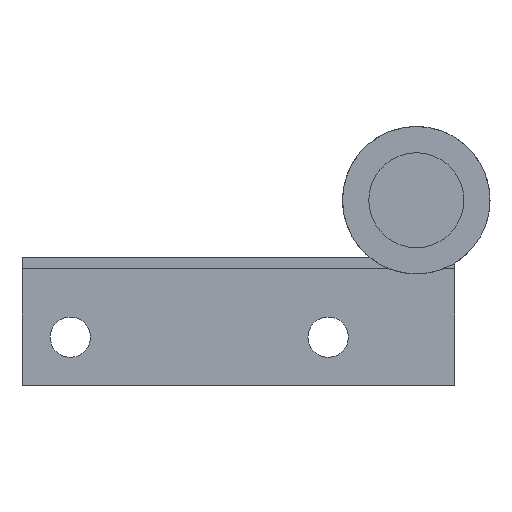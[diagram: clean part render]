
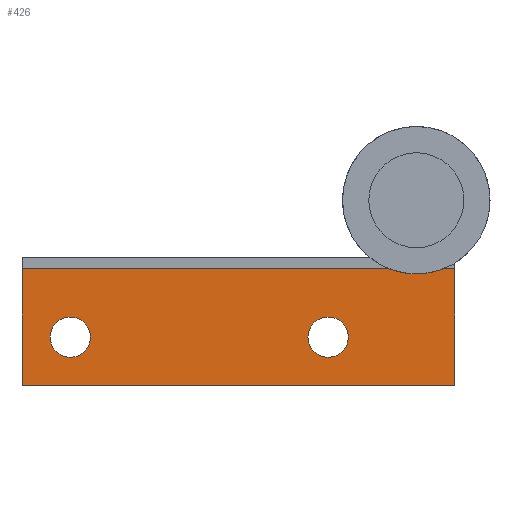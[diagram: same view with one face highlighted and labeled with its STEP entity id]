
A CAD part, front view. The second image highlights one B-rep face of the part: STEP entity #426.
In plain terms, the highlighted planar face has unit normal (0, -1, 0).
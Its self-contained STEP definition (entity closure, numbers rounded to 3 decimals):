
#1 = VERTEX_POINT ( 'NONE', #582 ) ;
#9 = VERTEX_POINT ( 'NONE', #72 ) ;
#66 = CARTESIAN_POINT ( 'NONE',  ( -48.95, 458.2, -23. ) ) ;
#67 = CARTESIAN_POINT ( 'NONE',  ( -48.95, 458.2, -8.5 ) ) ;
#70 = CARTESIAN_POINT ( 'NONE',  ( 4.75, 458.2, -8.5 ) ) ;
#72 = CARTESIAN_POINT ( 'NONE',  ( -40.45, 458.2, -17. ) ) ;
#74 = VERTEX_POINT ( 'NONE', #564 ) ;
#75 = VERTEX_POINT ( 'NONE', #70 ) ;
#78 = VERTEX_POINT ( 'NONE', #67 ) ;
#79 = VERTEX_POINT ( 'NONE', #66 ) ;
#179 = CARTESIAN_POINT ( 'NONE',  ( -13.45, 458.2, -17. ) ) ;
#187 = CARTESIAN_POINT ( 'NONE',  ( -8.45, 458.2, -17. ) ) ;
#201 = CARTESIAN_POINT ( 'NONE',  ( 9.15, 458.2, -23. ) ) ;
#208 = DIRECTION ( 'NONE',  ( -1., 0., 0. ) ) ;
#218 = CARTESIAN_POINT ( 'NONE',  ( -10.95, 458.2, -17. ) ) ;
#219 = DIRECTION ( 'NONE',  ( 0., 1., 0. ) ) ;
#220 = DIRECTION ( 'NONE',  ( 1., 0., 0. ) ) ;
#241 = CARTESIAN_POINT ( 'NONE',  ( -42.95, 458.2, -17. ) ) ;
#247 = DIRECTION ( 'NONE',  ( 0., 1., 0. ) ) ;
#248 = DIRECTION ( 'NONE',  ( 1., 0., 0. ) ) ;
#260 = CARTESIAN_POINT ( 'NONE',  ( 4.75, 458.2, -23. ) ) ;
#261 = DIRECTION ( 'NONE',  ( 0., 0., -1. ) ) ;
#266 = CARTESIAN_POINT ( 'NONE',  ( -48.95, 458.2, -23. ) ) ;
#269 = DIRECTION ( 'NONE',  ( 0., 0., -1. ) ) ;
#276 = CARTESIAN_POINT ( 'NONE',  ( -42.95, 458.2, -17. ) ) ;
#277 = DIRECTION ( 'NONE',  ( 0., 1., 0. ) ) ;
#278 = DIRECTION ( 'NONE',  ( 1., 0., 0. ) ) ;
#281 = CARTESIAN_POINT ( 'NONE',  ( 9.15, 458.2, -8.5 ) ) ;
#282 = DIRECTION ( 'NONE',  ( -1., 0., 0. ) ) ;
#359 = CARTESIAN_POINT ( 'NONE',  ( -10.95, 458.2, -17. ) ) ;
#364 = DIRECTION ( 'NONE',  ( 0., 1., 0. ) ) ;
#365 = DIRECTION ( 'NONE',  ( 1., 0., 0. ) ) ;
#426 = ADVANCED_FACE ( 'NONE', ( #883, #871, #925 ), #624, .F. ) ;
#444 = CIRCLE ( 'NONE', #1030, 2.5 ) ;
#450 = LINE ( 'NONE', #260, #451 ) ;
#451 = VECTOR ( 'NONE', #261, 1000. ) ;
#459 = CIRCLE ( 'NONE', #958, 2.5 ) ;
#461 = LINE ( 'NONE', #281, #516 ) ;
#479 = CIRCLE ( 'NONE', #956, 2.5 ) ;
#516 = VECTOR ( 'NONE', #282, 1000. ) ;
#519 = VECTOR ( 'NONE', #269, 1000. ) ;
#524 = LINE ( 'NONE', #266, #519 ) ;
#553 = CIRCLE ( 'NONE', #968, 2.5 ) ;
#564 = CARTESIAN_POINT ( 'NONE',  ( 4.75, 458.2, -23. ) ) ;
#574 = VERTEX_POINT ( 'NONE', #179 ) ;
#582 = CARTESIAN_POINT ( 'NONE',  ( -45.45, 458.2, -17. ) ) ;
#585 = VERTEX_POINT ( 'NONE', #187 ) ;
#624 = PLANE ( 'NONE',  #947 ) ;
#625 = CARTESIAN_POINT ( 'NONE',  ( 9.15, 458.2, -23. ) ) ;
#626 = DIRECTION ( 'NONE',  ( 0., 1., 0. ) ) ;
#627 = DIRECTION ( 'NONE',  ( 1., 0., 0. ) ) ;
#673 = LINE ( 'NONE', #201, #924 ) ;
#705 = ORIENTED_EDGE ( 'NONE', *, *, #989, .F. ) ;
#717 = ORIENTED_EDGE ( 'NONE', *, *, #936, .F. ) ;
#725 = EDGE_LOOP ( 'NONE', ( #776, #777 ) ) ;
#728 = EDGE_LOOP ( 'NONE', ( #891, #898 ) ) ;
#737 = EDGE_LOOP ( 'NONE', ( #899, #811, #717, #705 ) ) ;
#776 = ORIENTED_EDGE ( 'NONE', *, *, #1062, .T. ) ;
#777 = ORIENTED_EDGE ( 'NONE', *, *, #962, .T. ) ;
#811 = ORIENTED_EDGE ( 'NONE', *, *, #996, .T. ) ;
#871 = FACE_BOUND ( 'NONE', #728, .T. ) ;
#883 = FACE_BOUND ( 'NONE', #725, .T. ) ;
#891 = ORIENTED_EDGE ( 'NONE', *, *, #1004, .T. ) ;
#898 = ORIENTED_EDGE ( 'NONE', *, *, #980, .T. ) ;
#899 = ORIENTED_EDGE ( 'NONE', *, *, #1008, .T. ) ;
#924 = VECTOR ( 'NONE', #208, 1000. ) ;
#925 = FACE_OUTER_BOUND ( 'NONE', #737, .T. ) ;
#936 = EDGE_CURVE ( 'NONE', #74, #79, #673, .T. ) ;
#947 = AXIS2_PLACEMENT_3D ( 'NONE', #625, #626, #627 ) ;
#956 = AXIS2_PLACEMENT_3D ( 'NONE', #218, #219, #220 ) ;
#958 = AXIS2_PLACEMENT_3D ( 'NONE', #359, #364, #365 ) ;
#962 = EDGE_CURVE ( 'NONE', #585, #574, #479, .T. ) ;
#968 = AXIS2_PLACEMENT_3D ( 'NONE', #276, #277, #278 ) ;
#980 = EDGE_CURVE ( 'NONE', #9, #1, #444, .T. ) ;
#989 = EDGE_CURVE ( 'NONE', #75, #74, #450, .T. ) ;
#996 = EDGE_CURVE ( 'NONE', #78, #79, #524, .T. ) ;
#1004 = EDGE_CURVE ( 'NONE', #1, #9, #553, .T. ) ;
#1008 = EDGE_CURVE ( 'NONE', #75, #78, #461, .T. ) ;
#1030 = AXIS2_PLACEMENT_3D ( 'NONE', #241, #247, #248 ) ;
#1062 = EDGE_CURVE ( 'NONE', #574, #585, #459, .T. ) ;
